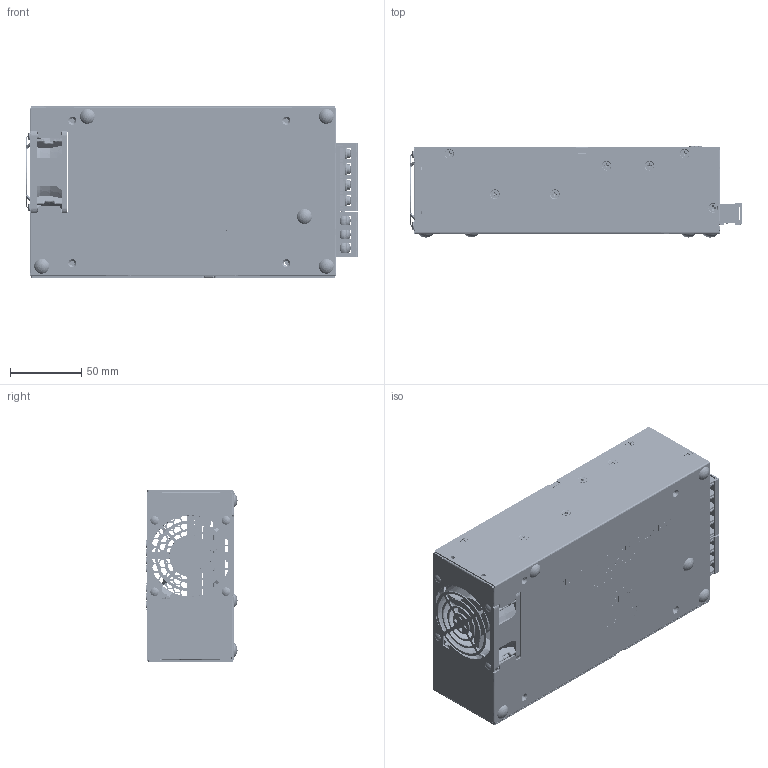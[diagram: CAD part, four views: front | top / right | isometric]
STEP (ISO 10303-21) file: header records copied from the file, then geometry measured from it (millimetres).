
FILE_DESCRIPTION((''),'2;1');
FILE_NAME('PMC-24V600W1BA_ASM','2019-05-08T',('Pattrapol.Seng'),(''),'PRO/ENGINEER BY PARAMETRIC TECHNOLOGY CORPORATION, 2010180','PRO/ENGINEER BY PARAMETRIC TECHNOLOGY CORPORATION, 2010180','');
FILE_SCHEMA(('CONFIG_CONTROL_DESIGN','SHAPE_APPEARANCE_LAYERS_GROUPS'));
Products named in the file (32): 330341690000; 330341690000_A_STUD-6-32-SHOUL; 330341690000_A_STUD-6-32; 330341690000_ASM; 324588550000; 33031488XX; 3208006400; 2958058801_PWB; 307049927W_A_PIN; 307049927W_A_COVER; 307049927W_A_BT24-KO31-03-M101; 307049927W_A_T24P101-20110103; 307049927W_A_BT25U101; 307049927W_ASM; EE_VR-ADJ; EE_LED; 3470404000; 307153717W_A_20120627; 307153717W_A_PIN; 307153717W_A_20091202; 307153717W_A_BT26U101; 307153717W_A_COVER; 307153717W_ASM; ASSY_PWB_PMC-24V600W1BA_ASM; 3422001200; 3422001200-2; 3103300600; 3105297100; 3620667723; 3101045200; WARNING-LABEL2; PMC-24V600W1BA_ASM
Assembly tree (65 placements, depth 4):
  PMC-24V600W1BA_ASM
    330341690000_ASM
      330341690000
      330341690000_A_STUD-6-32-SHOUL  x2
      330341690000_A_STUD-6-32  x3
    324588550000
    33031488XX
    3208006400
    ASSY_PWB_PMC-24V600W1BA_ASM
      2958058801_PWB
      307049927W_ASM
        307049927W_A_PIN  x3
        307049927W_A_COVER
        307049927W_A_BT24-KO31-03-M101
        307049927W_A_T24P101-20110103  x3
        307049927W_A_BT25U101  x3
      EE_VR-ADJ
      EE_LED
      3470404000
      307153717W_ASM
        307153717W_A_20120627  x4
        307153717W_A_PIN  x2
        307153717W_A_20091202
        307153717W_A_BT26U101  x4
        307153717W_A_COVER
    3422001200  x4
    3422001200-2  x4
    3103300600  x5
    3105297100  x6
    3620667723
    3101045200  x4
    WARNING-LABEL2
Bounding box: 232.7 x 63.8 x 120 mm (x, y, z)
Surface area: 332238.7 mm2 (no closed solid volume)
Topology: 0 solids, 0 shells, 7459 faces, 41121 edges, 40947 vertices
Faces by surface type: bspline 7277, torus 158, sphere 24
Entity records: 450341 total; most frequent: CARTESIAN_POINT 168275, DIRECTION 42971, TRIMMED_CURVE 40584, VECTOR 38599, LINE 38599, DEFINITIONAL_REPRESENTATION 30989, PCURVE 30989, COMPOSITE_CURVE_SEGMENT 30989
